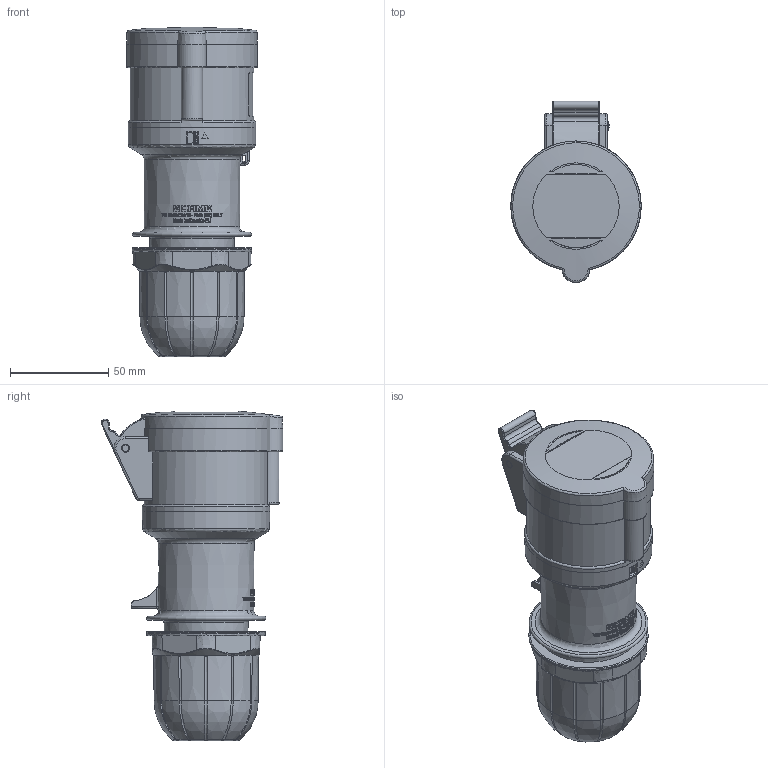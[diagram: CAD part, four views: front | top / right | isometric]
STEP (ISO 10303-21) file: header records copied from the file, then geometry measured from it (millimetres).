
FILE_DESCRIPTION(/* description */ (''),/* implementation_level */ '2;1');
FILE_NAME(/* name */ '4002110.stp',/* time_stamp */ '2019-02-28T15:06:06+01:00',/* author */ (''),/* organization */ (''),/* preprocessor_version */ 'ST-DEVELOPER v16.7',/* originating_system */ 'SIEMENS PLM Software NX 12.0',/* authorisation */ '');
FILE_SCHEMA (('AUTOMOTIVE_DESIGN { 1 0 10303 214 3 1 1 1 }'));
Length unit declared in the file: millimetre
Products named in the file (1): bsom0E707C67nbee
Bounding box: 66.5 x 92.38 x 167.64 mm (x, y, z)
Volume: 144798.1 mm3; surface area: 159456 mm2
Topology: 10 solids, 12 shells, 3896 faces, 10417 edges, 6630 vertices
Faces by surface type: plane 1363, cylinder 731, bspline 610, cone 443, extrusion 375, torus 276, sphere 92, revolution 6
Full cylindrical faces by diameter (mm): 0.998 x4, 3.2 x2, 3.3 x1, 3.5 x1, 4 x8, 4.3 x2, 4.643 x1, 5 x2, 5.7 x2, 5.8 x1, 16 x1, 17.5 x1, 44.4 x1, 45.5 x3, 45.6 x1, 45.9 x1, 46.2 x1, 46.8 x1, 57 x1, 60.7 x1, 65 x1
Entity records: 192878 total; most frequent: CARTESIAN_POINT 104538, ORIENTED_EDGE 20056, DIRECTION 15436, EDGE_CURVE 10028, VERTEX_POINT 6515, AXIS2_PLACEMENT_3D 5846, EDGE_LOOP 4315, B_SPLINE_CURVE_WITH_KNOTS 4096
